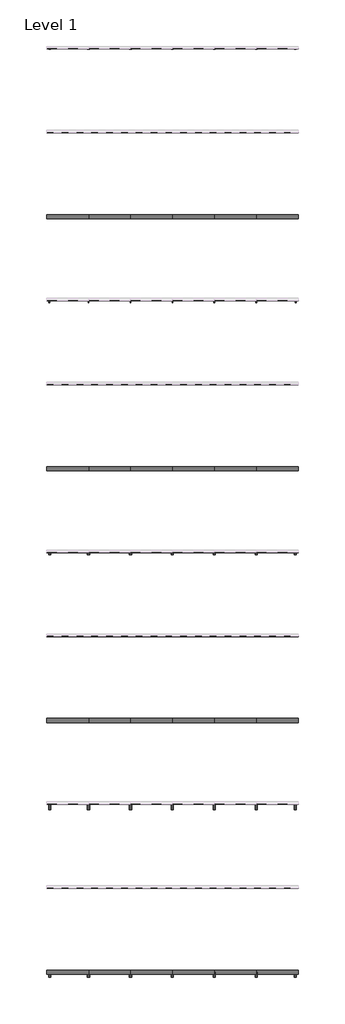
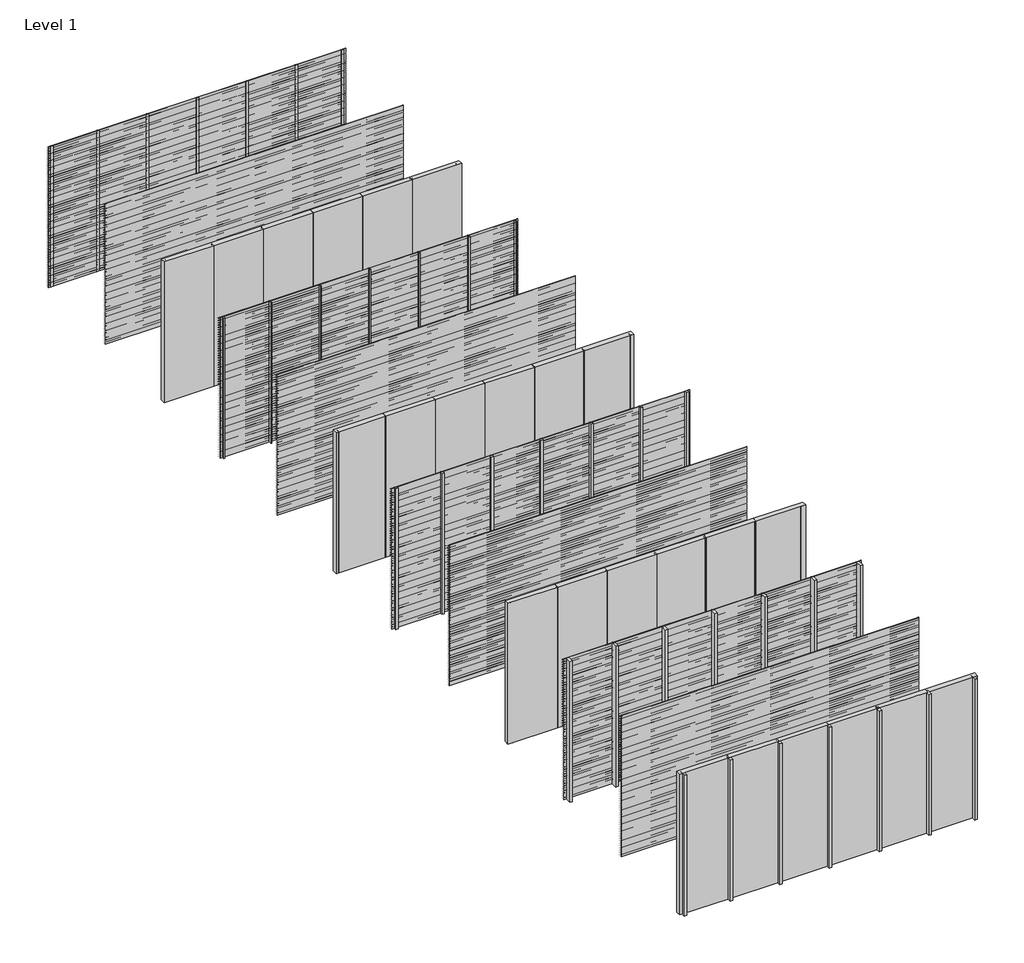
# One storey, part 1 of 18: 56 members, 52 plates, 18 proxies.
"""IFC4 building model written with IfcOpenShell, lengths in millimetres."""

from ifc_helpers import new_model, si_unit, frame, origin, origin_with_axes, place, context, project, spatial, polyline, outline, extrude, transform, mapped, element, save
from components import rectangular_mullion_bbbcbd30, rectangular_mullion_f8d4a220, rectangular_mullion_81aaf6fe, rectangular_mullion_6e08dc26, rectangular_mullion_75c52e10, rectangular_mullion_40295cf1, rectangular_mullion_7f158cb3, rectangular_mullion_66519e13, rectangular_mullion_5829b51c, rectangular_mullion_3b5b8a15, rectangular_mullion_81543344, rectangular_mullion_041a21c4, empty_system_panel_empty_e246a7f8, empty_system_panel_empty_98ea7a2b

model = new_model("IFC4")

# Units and contexts
model_context = context("Model", 3, world=origin())
ifc_project = project(units=[si_unit("LENGTHUNIT", "METRE", prefix="MILLI")], contexts=[model_context])

# Site, building, storey
site = spatial("IfcSite", under=ifc_project)
building = spatial("IfcBuilding", under=site)
storey = spatial("IfcBuildingStorey", under=building, Name="Level 1", Elevation=0.0)

# Proxies
placement = place(None, origin())
element("IfcBuildingElementProxy", 1, Name="Wall Sweeps", at=placement, inside=storey, context=model_context, shape_type="SweptSolid", body=[
    extrude(outline(polyline([(-19995.0, 3000.0), (-19995.0, 2991.0744429), (-19943.0, 2956.0), (-19943.0, 2950.0), (-19997.0, 2986.4234599), (-19997.0, 3000.0), (-19995.0, 3000.0)])), frame((0.0, 0.0, 0.0), z_axis=(1.0, 0.0, 0.0), x_axis=(0.0, 1.0, 0.0)), (0.0, 0.0, 1.0), 6000.0),
])
element("IfcBuildingElementProxy", 2, Name="Wall Sweeps", at=placement, inside=storey, context=model_context, shape_type="SweptSolid", body=[
    extrude(outline(polyline([(-19995.0, 2950.0), (-19995.0, 2941.0744429), (-19943.0, 2906.0), (-19943.0, 2900.0), (-19997.0, 2936.4234599), (-19997.0, 2950.0), (-19995.0, 2950.0)])), frame((0.0, 0.0, 0.0), z_axis=(1.0, 0.0, 0.0), x_axis=(0.0, 1.0, 0.0)), (0.0, 0.0, 1.0), 6000.0),
])
element("IfcBuildingElementProxy", 3, Name="Wall Sweeps", at=placement, inside=storey, context=model_context, shape_type="SweptSolid", body=[
    extrude(outline(polyline([(-19995.0, 2900.0), (-19995.0, 2891.0744429), (-19943.0, 2856.0), (-19943.0, 2850.0), (-19997.0, 2886.4234599), (-19997.0, 2900.0), (-19995.0, 2900.0)])), frame((0.0, 0.0, 0.0), z_axis=(1.0, 0.0, 0.0), x_axis=(0.0, 1.0, 0.0)), (0.0, 0.0, 1.0), 6000.0),
])
element("IfcBuildingElementProxy", 4, Name="Wall Sweeps", at=placement, inside=storey, context=model_context, shape_type="SweptSolid", body=[
    extrude(outline(polyline([(-19995.0, 2850.0), (-19995.0, 2841.0744429), (-19943.0, 2806.0), (-19943.0, 2800.0), (-19997.0, 2836.4234599), (-19997.0, 2850.0), (-19995.0, 2850.0)])), frame((0.0, 0.0, 0.0), z_axis=(1.0, 0.0, 0.0), x_axis=(0.0, 1.0, 0.0)), (0.0, 0.0, 1.0), 6000.0),
])
element("IfcBuildingElementProxy", 5, Name="Wall Sweeps", at=placement, inside=storey, context=model_context, shape_type="SweptSolid", body=[
    extrude(outline(polyline([(-19995.0, 2800.0), (-19995.0, 2791.0744429), (-19943.0, 2756.0), (-19943.0, 2750.0), (-19997.0, 2786.4234599), (-19997.0, 2800.0), (-19995.0, 2800.0)])), frame((0.0, 0.0, 0.0), z_axis=(1.0, 0.0, 0.0), x_axis=(0.0, 1.0, 0.0)), (0.0, 0.0, 1.0), 6000.0),
])
element("IfcBuildingElementProxy", 6, Name="Wall Sweeps", at=placement, inside=storey, context=model_context, shape_type="SweptSolid", body=[
    extrude(outline(polyline([(-19995.0, 2750.0), (-19995.0, 2741.0744429), (-19943.0, 2706.0), (-19943.0, 2700.0), (-19997.0, 2736.4234599), (-19997.0, 2750.0), (-19995.0, 2750.0)])), frame((0.0, 0.0, 0.0), z_axis=(1.0, 0.0, 0.0), x_axis=(0.0, 1.0, 0.0)), (0.0, 0.0, 1.0), 6000.0),
])
element("IfcBuildingElementProxy", 7, Name="Wall Sweeps", at=placement, inside=storey, context=model_context, shape_type="SweptSolid", body=[
    extrude(outline(polyline([(-19995.0, 2700.0), (-19995.0, 2691.0744429), (-19943.0, 2656.0), (-19943.0, 2650.0), (-19997.0, 2686.4234599), (-19997.0, 2700.0), (-19995.0, 2700.0)])), frame((0.0, 0.0, 0.0), z_axis=(1.0, 0.0, 0.0), x_axis=(0.0, 1.0, 0.0)), (0.0, 0.0, 1.0), 6000.0),
])
element("IfcBuildingElementProxy", 8, Name="Wall Sweeps", at=placement, inside=storey, context=model_context, shape_type="SweptSolid", body=[
    extrude(outline(polyline([(-19995.0, 2650.0), (-19995.0, 2641.0744429), (-19943.0, 2606.0), (-19943.0, 2600.0), (-19997.0, 2636.4234599), (-19997.0, 2650.0), (-19995.0, 2650.0)])), frame((0.0, 0.0, 0.0), z_axis=(1.0, 0.0, 0.0), x_axis=(0.0, 1.0, 0.0)), (0.0, 0.0, 1.0), 6000.0),
])
element("IfcBuildingElementProxy", 9, Name="Wall Sweeps", at=placement, inside=storey, context=model_context, shape_type="SweptSolid", body=[
    extrude(outline(polyline([(-19995.0, 2600.0), (-19995.0, 2591.0744429), (-19943.0, 2556.0), (-19943.0, 2550.0), (-19997.0, 2586.4234599), (-19997.0, 2600.0), (-19995.0, 2600.0)])), frame((0.0, 0.0, 0.0), z_axis=(1.0, 0.0, 0.0), x_axis=(0.0, 1.0, 0.0)), (0.0, 0.0, 1.0), 6000.0),
])
element("IfcBuildingElementProxy", 10, Name="Wall Sweeps", at=placement, inside=storey, context=model_context, shape_type="SweptSolid", body=[
    extrude(outline(polyline([(-19995.0, 2550.0), (-19995.0, 2541.0744429), (-19943.0, 2506.0), (-19943.0, 2500.0), (-19997.0, 2536.4234599), (-19997.0, 2550.0), (-19995.0, 2550.0)])), frame((0.0, 0.0, 0.0), z_axis=(1.0, 0.0, 0.0), x_axis=(0.0, 1.0, 0.0)), (0.0, 0.0, 1.0), 6000.0),
])
element("IfcBuildingElementProxy", 11, Name="Wall Sweeps", at=placement, inside=storey, context=model_context, shape_type="SweptSolid", body=[
    extrude(outline(polyline([(-19995.0, 2500.0), (-19995.0, 2491.0744429), (-19943.0, 2456.0), (-19943.0, 2450.0), (-19997.0, 2486.4234599), (-19997.0, 2500.0), (-19995.0, 2500.0)])), frame((0.0, 0.0, 0.0), z_axis=(1.0, 0.0, 0.0), x_axis=(0.0, 1.0, 0.0)), (0.0, 0.0, 1.0), 6000.0),
])
element("IfcBuildingElementProxy", 12, Name="Wall Sweeps", at=placement, inside=storey, context=model_context, shape_type="SweptSolid", body=[
    extrude(outline(polyline([(-19995.0, 2450.0), (-19995.0, 2441.0744429), (-19943.0, 2406.0), (-19943.0, 2400.0), (-19997.0, 2436.4234599), (-19997.0, 2450.0), (-19995.0, 2450.0)])), frame((0.0, 0.0, 0.0), z_axis=(1.0, 0.0, 0.0), x_axis=(0.0, 1.0, 0.0)), (0.0, 0.0, 1.0), 6000.0),
])
element("IfcBuildingElementProxy", 13, Name="Wall Sweeps", at=placement, inside=storey, context=model_context, shape_type="SweptSolid", body=[
    extrude(outline(polyline([(-19995.0, 2400.0), (-19995.0, 2391.0744429), (-19943.0, 2356.0), (-19943.0, 2350.0), (-19997.0, 2386.4234599), (-19997.0, 2400.0), (-19995.0, 2400.0)])), frame((0.0, 0.0, 0.0), z_axis=(1.0, 0.0, 0.0), x_axis=(0.0, 1.0, 0.0)), (0.0, 0.0, 1.0), 6000.0),
])
element("IfcBuildingElementProxy", 14, Name="Wall Sweeps", at=placement, inside=storey, context=model_context, shape_type="SweptSolid", body=[
    extrude(outline(polyline([(-19995.0, 2350.0), (-19995.0, 2341.0744429), (-19943.0, 2306.0), (-19943.0, 2300.0), (-19997.0, 2336.4234599), (-19997.0, 2350.0), (-19995.0, 2350.0)])), frame((0.0, 0.0, 0.0), z_axis=(1.0, 0.0, 0.0), x_axis=(0.0, 1.0, 0.0)), (0.0, 0.0, 1.0), 6000.0),
])
element("IfcBuildingElementProxy", 15, Name="Wall Sweeps", at=placement, inside=storey, context=model_context, shape_type="SweptSolid", body=[
    extrude(outline(polyline([(-19995.0, 2300.0), (-19995.0, 2291.0744429), (-19943.0, 2256.0), (-19943.0, 2250.0), (-19997.0, 2286.4234599), (-19997.0, 2300.0), (-19995.0, 2300.0)])), frame((0.0, 0.0, 0.0), z_axis=(1.0, 0.0, 0.0), x_axis=(0.0, 1.0, 0.0)), (0.0, 0.0, 1.0), 6000.0),
])
element("IfcBuildingElementProxy", 16, Name="Wall Sweeps", at=placement, inside=storey, context=model_context, shape_type="SweptSolid", body=[
    extrude(outline(polyline([(-19995.0, 2250.0), (-19995.0, 2241.0744429), (-19943.0, 2206.0), (-19943.0, 2200.0), (-19997.0, 2236.4234599), (-19997.0, 2250.0), (-19995.0, 2250.0)])), frame((0.0, 0.0, 0.0), z_axis=(1.0, 0.0, 0.0), x_axis=(0.0, 1.0, 0.0)), (0.0, 0.0, 1.0), 6000.0),
])
element("IfcBuildingElementProxy", 17, Name="Wall Sweeps", at=placement, inside=storey, context=model_context, shape_type="SweptSolid", body=[
    extrude(outline(polyline([(-19995.0, 2200.0), (-19995.0, 2191.0744429), (-19943.0, 2156.0), (-19943.0, 2150.0), (-19997.0, 2186.4234599), (-19997.0, 2200.0), (-19995.0, 2200.0)])), frame((0.0, 0.0, 0.0), z_axis=(1.0, 0.0, 0.0), x_axis=(0.0, 1.0, 0.0)), (0.0, 0.0, 1.0), 6000.0),
])
element("IfcBuildingElementProxy", 18, Name="Wall Sweeps", at=placement, inside=storey, context=model_context, shape_type="SweptSolid", body=[
    extrude(outline(polyline([(-19995.0, 2150.0), (-19995.0, 2141.0744429), (-19943.0, 2106.0), (-19943.0, 2100.0), (-19997.0, 2136.4234599), (-19997.0, 2150.0), (-19995.0, 2150.0)])), frame((0.0, 0.0, 0.0), z_axis=(1.0, 0.0, 0.0), x_axis=(0.0, 1.0, 0.0)), (0.0, 0.0, 1.0), 6000.0),
])

# Members
rectangular_mullion_shape = rectangular_mullion_bbbcbd30(model_context)
element("IfcMember", 19, ObjectType="Rectangular Mullion : RSen_21_CWM_support profile - 50x12 - left_gen_duco projects", at=placement, inside=storey, context=model_context, shape_type="MappedRepresentation", body=[
    mapped(rectangular_mullion_shape, transform((0.0, 0.0, 0.0), x_axis=(-1.0, 0.0, 0.0), y_axis=(0.0, 1.0, 0.0), z_axis=(0.0, 0.0, -1.0))),
])
element("IfcMember", 20, ObjectType="Rectangular Mullion : RSen_21_CWM_support profile - 50x12 - left_gen_duco projects", at=placement, inside=storey, context=model_context, shape_type="MappedRepresentation", body=[
    mapped(rectangular_mullion_shape, transform((0.0, -4000.0, 0.0), x_axis=(-1.0, 0.0, 0.0), y_axis=(0.0, 1.0, 0.0), z_axis=(0.0, 0.0, -1.0))),
])
rectangular_mullion_2_shape = rectangular_mullion_f8d4a220(model_context)
element("IfcMember", 21, ObjectType="Rectangular Mullion : RSen_21_CWM_support profile - 50x12 - right_gen_duco projects", at=placement, inside=storey, context=model_context, shape_type="MappedRepresentation", body=[
    mapped(rectangular_mullion_2_shape, transform((6000.0, 0.0, 3000.0), x_axis=(1.0, 0.0, 0.0), y_axis=(0.0, 1.0, 0.0), z_axis=(0.0, 0.0, 1.0))),
])
element("IfcMember", 22, ObjectType="Rectangular Mullion : RSen_21_CWM_support profile - 50x12 - right_gen_duco projects", at=placement, inside=storey, context=model_context, shape_type="MappedRepresentation", body=[
    mapped(rectangular_mullion_2_shape, transform((6000.0, -4000.0, 3000.0), x_axis=(1.0, 0.0, 0.0), y_axis=(0.0, 1.0, 0.0), z_axis=(0.0, 0.0, 1.0))),
])
rectangular_mullion_3_shape = rectangular_mullion_81aaf6fe(model_context)
element("IfcMember", 23, ObjectType="Rectangular Mullion : RSen_21_CWM_support profile - 21x50 Multi - left_gen_duco projects", at=placement, inside=storey, context=model_context, shape_type="MappedRepresentation", body=[
    mapped(rectangular_mullion_3_shape, transform((0.0, -6000.0, 0.0), x_axis=(-1.0, 0.0, 0.0), y_axis=(0.0, 1.0, 0.0), z_axis=(0.0, 0.0, -1.0))),
])
element("IfcMember", 24, ObjectType="Rectangular Mullion : RSen_21_CWM_support profile - 21x50 Multi - left_gen_duco projects", at=placement, inside=storey, context=model_context, shape_type="MappedRepresentation", body=[
    mapped(rectangular_mullion_3_shape, transform((0.0, -10000.0, 0.0), x_axis=(-1.0, 0.0, 0.0), y_axis=(0.0, 1.0, 0.0), z_axis=(0.0, 0.0, -1.0))),
])
rectangular_mullion_4_shape = rectangular_mullion_6e08dc26(model_context)
element("IfcMember", 25, ObjectType="Rectangular Mullion : RSen_21_CWM_support profile - 21x50 Multi - right_gen_duco projects", at=placement, inside=storey, context=model_context, shape_type="MappedRepresentation", body=[
    mapped(rectangular_mullion_4_shape, transform((6000.0, -6000.0, 3000.0), x_axis=(1.0, 0.0, 0.0), y_axis=(0.0, 1.0, 0.0), z_axis=(0.0, 0.0, 1.0))),
])
element("IfcMember", 26, ObjectType="Rectangular Mullion : RSen_21_CWM_support profile - 21x50 Multi - right_gen_duco projects", at=placement, inside=storey, context=model_context, shape_type="MappedRepresentation", body=[
    mapped(rectangular_mullion_4_shape, transform((6000.0, -10000.0, 3000.0), x_axis=(1.0, 0.0, 0.0), y_axis=(0.0, 1.0, 0.0), z_axis=(0.0, 0.0, 1.0))),
])
rectangular_mullion_5_shape = rectangular_mullion_75c52e10(model_context)
element("IfcMember", 27, ObjectType="Rectangular Mullion : RSen_21_CWM_support profile - 50x50 - left_gen_duco projects", at=placement, inside=storey, context=model_context, shape_type="MappedRepresentation", body=[
    mapped(rectangular_mullion_5_shape, transform((0.0, -12000.0, 0.0), x_axis=(-1.0, 0.0, 0.0), y_axis=(0.0, 1.0, 0.0), z_axis=(0.0, 0.0, -1.0))),
])
element("IfcMember", 28, ObjectType="Rectangular Mullion : RSen_21_CWM_support profile - 50x50 - left_gen_duco projects", at=placement, inside=storey, context=model_context, shape_type="MappedRepresentation", body=[
    mapped(rectangular_mullion_5_shape, transform((0.0, -16000.0, 0.0), x_axis=(-1.0, 0.0, 0.0), y_axis=(0.0, 1.0, 0.0), z_axis=(0.0, 0.0, -1.0))),
])
rectangular_mullion_6_shape = rectangular_mullion_40295cf1(model_context)
element("IfcMember", 29, ObjectType="Rectangular Mullion : RSen_21_CWM_support profile - 50x50 - right_gen_duco projects", at=placement, inside=storey, context=model_context, shape_type="MappedRepresentation", body=[
    mapped(rectangular_mullion_6_shape, transform((6000.0, -12000.0, 3000.0), x_axis=(1.0, 0.0, 0.0), y_axis=(0.0, 1.0, 0.0), z_axis=(0.0, 0.0, 1.0))),
])
element("IfcMember", 30, ObjectType="Rectangular Mullion : RSen_21_CWM_support profile - 50x50 - right_gen_duco projects", at=placement, inside=storey, context=model_context, shape_type="MappedRepresentation", body=[
    mapped(rectangular_mullion_6_shape, transform((6000.0, -16000.0, 3000.0), x_axis=(1.0, 0.0, 0.0), y_axis=(0.0, 1.0, 0.0), z_axis=(0.0, 0.0, 1.0))),
])
rectangular_mullion_7_shape = rectangular_mullion_7f158cb3(model_context)
element("IfcMember", 31, ObjectType="Rectangular Mullion : RSen_21_CWM_support profile - 50x12_gen_duco projects", at=placement, inside=storey, context=model_context, shape_type="MappedRepresentation", body=[
    mapped(rectangular_mullion_7_shape, transform((5000.0, 0.0, 0.0), x_axis=(-1.0, 0.0, 0.0), y_axis=(0.0, 1.0, 0.0), z_axis=(0.0, 0.0, -1.0))),
])
element("IfcMember", 32, ObjectType="Rectangular Mullion : RSen_21_CWM_support profile - 50x12_gen_duco projects", at=placement, inside=storey, context=model_context, shape_type="MappedRepresentation", body=[
    mapped(rectangular_mullion_7_shape, transform((4000.0, 0.0, 0.0), x_axis=(-1.0, 0.0, 0.0), y_axis=(0.0, 1.0, 0.0), z_axis=(0.0, 0.0, -1.0))),
])
element("IfcMember", 33, ObjectType="Rectangular Mullion : RSen_21_CWM_support profile - 50x12_gen_duco projects", at=placement, inside=storey, context=model_context, shape_type="MappedRepresentation", body=[
    mapped(rectangular_mullion_7_shape, transform((3000.0, 0.0, 0.0), x_axis=(-1.0, 0.0, 0.0), y_axis=(0.0, 1.0, 0.0), z_axis=(0.0, 0.0, -1.0))),
])
element("IfcMember", 34, ObjectType="Rectangular Mullion : RSen_21_CWM_support profile - 50x12_gen_duco projects", at=placement, inside=storey, context=model_context, shape_type="MappedRepresentation", body=[
    mapped(rectangular_mullion_7_shape, transform((2000.0, 0.0, 0.0), x_axis=(-1.0, 0.0, 0.0), y_axis=(0.0, 1.0, 0.0), z_axis=(0.0, 0.0, -1.0))),
])
element("IfcMember", 35, ObjectType="Rectangular Mullion : RSen_21_CWM_support profile - 50x12_gen_duco projects", at=placement, inside=storey, context=model_context, shape_type="MappedRepresentation", body=[
    mapped(rectangular_mullion_7_shape, transform((1000.0, 0.0, 0.0), x_axis=(-1.0, 0.0, 0.0), y_axis=(0.0, 1.0, 0.0), z_axis=(0.0, 0.0, -1.0))),
])
element("IfcMember", 36, ObjectType="Rectangular Mullion : RSen_21_CWM_support profile - 50x12_gen_duco projects", at=placement, inside=storey, context=model_context, shape_type="MappedRepresentation", body=[
    mapped(rectangular_mullion_7_shape, transform((5000.0, -4000.0, 0.0), x_axis=(-1.0, 0.0, 0.0), y_axis=(0.0, 1.0, 0.0), z_axis=(0.0, 0.0, -1.0))),
])
element("IfcMember", 37, ObjectType="Rectangular Mullion : RSen_21_CWM_support profile - 50x12_gen_duco projects", at=placement, inside=storey, context=model_context, shape_type="MappedRepresentation", body=[
    mapped(rectangular_mullion_7_shape, transform((4000.0, -4000.0, 0.0), x_axis=(-1.0, 0.0, 0.0), y_axis=(0.0, 1.0, 0.0), z_axis=(0.0, 0.0, -1.0))),
])
element("IfcMember", 38, ObjectType="Rectangular Mullion : RSen_21_CWM_support profile - 50x12_gen_duco projects", at=placement, inside=storey, context=model_context, shape_type="MappedRepresentation", body=[
    mapped(rectangular_mullion_7_shape, transform((3000.0, -4000.0, 0.0), x_axis=(-1.0, 0.0, 0.0), y_axis=(0.0, 1.0, 0.0), z_axis=(0.0, 0.0, -1.0))),
])
element("IfcMember", 39, ObjectType="Rectangular Mullion : RSen_21_CWM_support profile - 50x12_gen_duco projects", at=placement, inside=storey, context=model_context, shape_type="MappedRepresentation", body=[
    mapped(rectangular_mullion_7_shape, transform((2000.0, -4000.0, 0.0), x_axis=(-1.0, 0.0, 0.0), y_axis=(0.0, 1.0, 0.0), z_axis=(0.0, 0.0, -1.0))),
])
element("IfcMember", 40, ObjectType="Rectangular Mullion : RSen_21_CWM_support profile - 50x12_gen_duco projects", at=placement, inside=storey, context=model_context, shape_type="MappedRepresentation", body=[
    mapped(rectangular_mullion_7_shape, transform((1000.0, -4000.0, 0.0), x_axis=(-1.0, 0.0, 0.0), y_axis=(0.0, 1.0, 0.0), z_axis=(0.0, 0.0, -1.0))),
])
rectangular_mullion_8_shape = rectangular_mullion_66519e13(model_context)
element("IfcMember", 41, ObjectType="Rectangular Mullion : RSen_21_CWM_support profile - 21x50 Multi_gen_duco projects", at=placement, inside=storey, context=model_context, shape_type="MappedRepresentation", body=[
    mapped(rectangular_mullion_8_shape, transform((5000.0, -6000.0, 0.0), x_axis=(-1.0, 0.0, 0.0), y_axis=(0.0, 1.0, 0.0), z_axis=(0.0, 0.0, -1.0))),
])
element("IfcMember", 42, ObjectType="Rectangular Mullion : RSen_21_CWM_support profile - 21x50 Multi_gen_duco projects", at=placement, inside=storey, context=model_context, shape_type="MappedRepresentation", body=[
    mapped(rectangular_mullion_8_shape, transform((4000.0, -6000.0, 0.0), x_axis=(-1.0, 0.0, 0.0), y_axis=(0.0, 1.0, 0.0), z_axis=(0.0, 0.0, -1.0))),
])
element("IfcMember", 43, ObjectType="Rectangular Mullion : RSen_21_CWM_support profile - 21x50 Multi_gen_duco projects", at=placement, inside=storey, context=model_context, shape_type="MappedRepresentation", body=[
    mapped(rectangular_mullion_8_shape, transform((3000.0, -6000.0, 0.0), x_axis=(-1.0, 0.0, 0.0), y_axis=(0.0, 1.0, 0.0), z_axis=(0.0, 0.0, -1.0))),
])
element("IfcMember", 44, ObjectType="Rectangular Mullion : RSen_21_CWM_support profile - 21x50 Multi_gen_duco projects", at=placement, inside=storey, context=model_context, shape_type="MappedRepresentation", body=[
    mapped(rectangular_mullion_8_shape, transform((2000.0, -6000.0, 0.0), x_axis=(-1.0, 0.0, 0.0), y_axis=(0.0, 1.0, 0.0), z_axis=(0.0, 0.0, -1.0))),
])
element("IfcMember", 45, ObjectType="Rectangular Mullion : RSen_21_CWM_support profile - 21x50 Multi_gen_duco projects", at=placement, inside=storey, context=model_context, shape_type="MappedRepresentation", body=[
    mapped(rectangular_mullion_8_shape, transform((1000.0, -6000.0, 0.0), x_axis=(-1.0, 0.0, 0.0), y_axis=(0.0, 1.0, 0.0), z_axis=(0.0, 0.0, -1.0))),
])
element("IfcMember", 46, ObjectType="Rectangular Mullion : RSen_21_CWM_support profile - 21x50 Multi_gen_duco projects", at=placement, inside=storey, context=model_context, shape_type="MappedRepresentation", body=[
    mapped(rectangular_mullion_8_shape, transform((5000.0, -10000.0, 0.0), x_axis=(-1.0, 0.0, 0.0), y_axis=(0.0, 1.0, 0.0), z_axis=(0.0, 0.0, -1.0))),
])
element("IfcMember", 47, ObjectType="Rectangular Mullion : RSen_21_CWM_support profile - 21x50 Multi_gen_duco projects", at=placement, inside=storey, context=model_context, shape_type="MappedRepresentation", body=[
    mapped(rectangular_mullion_8_shape, transform((4000.0, -10000.0, 0.0), x_axis=(-1.0, 0.0, 0.0), y_axis=(0.0, 1.0, 0.0), z_axis=(0.0, 0.0, -1.0))),
])
element("IfcMember", 48, ObjectType="Rectangular Mullion : RSen_21_CWM_support profile - 21x50 Multi_gen_duco projects", at=placement, inside=storey, context=model_context, shape_type="MappedRepresentation", body=[
    mapped(rectangular_mullion_8_shape, transform((3000.0, -10000.0, 0.0), x_axis=(-1.0, 0.0, 0.0), y_axis=(0.0, 1.0, 0.0), z_axis=(0.0, 0.0, -1.0))),
])
element("IfcMember", 49, ObjectType="Rectangular Mullion : RSen_21_CWM_support profile - 21x50 Multi_gen_duco projects", at=placement, inside=storey, context=model_context, shape_type="MappedRepresentation", body=[
    mapped(rectangular_mullion_8_shape, transform((2000.0, -10000.0, 0.0), x_axis=(-1.0, 0.0, 0.0), y_axis=(0.0, 1.0, 0.0), z_axis=(0.0, 0.0, -1.0))),
])
element("IfcMember", 50, ObjectType="Rectangular Mullion : RSen_21_CWM_support profile - 21x50 Multi_gen_duco projects", at=placement, inside=storey, context=model_context, shape_type="MappedRepresentation", body=[
    mapped(rectangular_mullion_8_shape, transform((1000.0, -10000.0, 0.0), x_axis=(-1.0, 0.0, 0.0), y_axis=(0.0, 1.0, 0.0), z_axis=(0.0, 0.0, -1.0))),
])
rectangular_mullion_9_shape = rectangular_mullion_5829b51c(model_context)
element("IfcMember", 51, ObjectType="Rectangular Mullion : RSen_21_CWM_support profile - 50x50_gen_duco projects", at=placement, inside=storey, context=model_context, shape_type="MappedRepresentation", body=[
    mapped(rectangular_mullion_9_shape, transform((5000.0, -12000.0, 0.0), x_axis=(-1.0, 0.0, 0.0), y_axis=(0.0, 1.0, 0.0), z_axis=(0.0, 0.0, -1.0))),
])
element("IfcMember", 52, ObjectType="Rectangular Mullion : RSen_21_CWM_support profile - 50x50_gen_duco projects", at=placement, inside=storey, context=model_context, shape_type="MappedRepresentation", body=[
    mapped(rectangular_mullion_9_shape, transform((4000.0, -12000.0, 0.0), x_axis=(-1.0, 0.0, 0.0), y_axis=(0.0, 1.0, 0.0), z_axis=(0.0, 0.0, -1.0))),
])
element("IfcMember", 53, ObjectType="Rectangular Mullion : RSen_21_CWM_support profile - 50x50_gen_duco projects", at=placement, inside=storey, context=model_context, shape_type="MappedRepresentation", body=[
    mapped(rectangular_mullion_9_shape, transform((3000.0, -12000.0, 0.0), x_axis=(-1.0, 0.0, 0.0), y_axis=(0.0, 1.0, 0.0), z_axis=(0.0, 0.0, -1.0))),
])
element("IfcMember", 54, ObjectType="Rectangular Mullion : RSen_21_CWM_support profile - 50x50_gen_duco projects", at=placement, inside=storey, context=model_context, shape_type="MappedRepresentation", body=[
    mapped(rectangular_mullion_9_shape, transform((2000.0, -12000.0, 0.0), x_axis=(-1.0, 0.0, 0.0), y_axis=(0.0, 1.0, 0.0), z_axis=(0.0, 0.0, -1.0))),
])
element("IfcMember", 55, ObjectType="Rectangular Mullion : RSen_21_CWM_support profile - 50x50_gen_duco projects", at=placement, inside=storey, context=model_context, shape_type="MappedRepresentation", body=[
    mapped(rectangular_mullion_9_shape, transform((1000.0, -12000.0, 0.0), x_axis=(-1.0, 0.0, 0.0), y_axis=(0.0, 1.0, 0.0), z_axis=(0.0, 0.0, -1.0))),
])
element("IfcMember", 56, ObjectType="Rectangular Mullion : RSen_21_CWM_support profile - 50x50_gen_duco projects", at=placement, inside=storey, context=model_context, shape_type="MappedRepresentation", body=[
    mapped(rectangular_mullion_9_shape, transform((5000.0, -16000.0, 0.0), x_axis=(-1.0, 0.0, 0.0), y_axis=(0.0, 1.0, 0.0), z_axis=(0.0, 0.0, -1.0))),
])
element("IfcMember", 57, ObjectType="Rectangular Mullion : RSen_21_CWM_support profile - 50x50_gen_duco projects", at=placement, inside=storey, context=model_context, shape_type="MappedRepresentation", body=[
    mapped(rectangular_mullion_9_shape, transform((4000.0, -16000.0, 0.0), x_axis=(-1.0, 0.0, 0.0), y_axis=(0.0, 1.0, 0.0), z_axis=(0.0, 0.0, -1.0))),
])
element("IfcMember", 58, ObjectType="Rectangular Mullion : RSen_21_CWM_support profile - 50x50_gen_duco projects", at=placement, inside=storey, context=model_context, shape_type="MappedRepresentation", body=[
    mapped(rectangular_mullion_9_shape, transform((3000.0, -16000.0, 0.0), x_axis=(-1.0, 0.0, 0.0), y_axis=(0.0, 1.0, 0.0), z_axis=(0.0, 0.0, -1.0))),
])
element("IfcMember", 59, ObjectType="Rectangular Mullion : RSen_21_CWM_support profile - 50x50_gen_duco projects", at=placement, inside=storey, context=model_context, shape_type="MappedRepresentation", body=[
    mapped(rectangular_mullion_9_shape, transform((2000.0, -16000.0, 0.0), x_axis=(-1.0, 0.0, 0.0), y_axis=(0.0, 1.0, 0.0), z_axis=(0.0, 0.0, -1.0))),
])
element("IfcMember", 60, ObjectType="Rectangular Mullion : RSen_21_CWM_support profile - 50x50_gen_duco projects", at=placement, inside=storey, context=model_context, shape_type="MappedRepresentation", body=[
    mapped(rectangular_mullion_9_shape, transform((1000.0, -16000.0, 0.0), x_axis=(-1.0, 0.0, 0.0), y_axis=(0.0, 1.0, 0.0), z_axis=(0.0, 0.0, -1.0))),
])
rectangular_mullion_10_shape = rectangular_mullion_3b5b8a15(model_context)
element("IfcMember", 61, ObjectType="Rectangular Mullion : RSen_21_CWM_support profile - 50x125_gen_duco projects", at=placement, inside=storey, context=model_context, shape_type="MappedRepresentation", body=[
    mapped(rectangular_mullion_10_shape, transform((1000.0000002, -18000.0, 0.0), x_axis=(1.0, 0.0, 0.0), y_axis=(0.0, -1.0, 0.0), z_axis=(0.0, 0.0, -1.0))),
])
element("IfcMember", 62, ObjectType="Rectangular Mullion : RSen_21_CWM_support profile - 50x125_gen_duco projects", at=placement, inside=storey, context=model_context, shape_type="MappedRepresentation", body=[
    mapped(rectangular_mullion_10_shape, transform((2000.0000001, -18000.0, 0.0), x_axis=(1.0, 0.0, 0.0), y_axis=(0.0, -1.0, 0.0), z_axis=(0.0, 0.0, -1.0))),
])
element("IfcMember", 63, ObjectType="Rectangular Mullion : RSen_21_CWM_support profile - 50x125_gen_duco projects", at=placement, inside=storey, context=model_context, shape_type="MappedRepresentation", body=[
    mapped(rectangular_mullion_10_shape, transform((3000.0, -18000.0, 0.0), x_axis=(1.0, 0.0, 0.0), y_axis=(0.0, -1.0, 0.0), z_axis=(0.0, 0.0, -1.0))),
])
element("IfcMember", 64, ObjectType="Rectangular Mullion : RSen_21_CWM_support profile - 50x125_gen_duco projects", at=placement, inside=storey, context=model_context, shape_type="MappedRepresentation", body=[
    mapped(rectangular_mullion_10_shape, transform((3999.9999999, -18000.0, 0.0), x_axis=(1.0, 0.0, 0.0), y_axis=(0.0, -1.0, 0.0), z_axis=(0.0, 0.0, -1.0))),
])
element("IfcMember", 65, ObjectType="Rectangular Mullion : RSen_21_CWM_support profile - 50x125_gen_duco projects", at=placement, inside=storey, context=model_context, shape_type="MappedRepresentation", body=[
    mapped(rectangular_mullion_10_shape, transform((4999.9999998, -18000.0, 0.0), x_axis=(1.0, 0.0, 0.0), y_axis=(0.0, -1.0, 0.0), z_axis=(0.0, 0.0, -1.0))),
])
element("IfcMember", 66, ObjectType="Rectangular Mullion : RSen_21_CWM_support profile - 50x125_gen_duco projects", at=placement, inside=storey, context=model_context, shape_type="MappedRepresentation", body=[
    mapped(rectangular_mullion_10_shape, transform((1000.0000002, -22000.0, 0.0), x_axis=(1.0, 0.0, 0.0), y_axis=(0.0, -1.0, 0.0), z_axis=(0.0, 0.0, -1.0))),
])
element("IfcMember", 67, ObjectType="Rectangular Mullion : RSen_21_CWM_support profile - 50x125_gen_duco projects", at=placement, inside=storey, context=model_context, shape_type="MappedRepresentation", body=[
    mapped(rectangular_mullion_10_shape, transform((2000.0000001, -22000.0, 0.0), x_axis=(1.0, 0.0, 0.0), y_axis=(0.0, -1.0, 0.0), z_axis=(0.0, 0.0, -1.0))),
])
element("IfcMember", 68, ObjectType="Rectangular Mullion : RSen_21_CWM_support profile - 50x125_gen_duco projects", at=placement, inside=storey, context=model_context, shape_type="MappedRepresentation", body=[
    mapped(rectangular_mullion_10_shape, transform((3000.0, -22000.0, 0.0), x_axis=(1.0, 0.0, 0.0), y_axis=(0.0, -1.0, 0.0), z_axis=(0.0, 0.0, -1.0))),
])
element("IfcMember", 69, ObjectType="Rectangular Mullion : RSen_21_CWM_support profile - 50x125_gen_duco projects", at=placement, inside=storey, context=model_context, shape_type="MappedRepresentation", body=[
    mapped(rectangular_mullion_10_shape, transform((3999.9999999, -22000.0, 0.0), x_axis=(1.0, 0.0, 0.0), y_axis=(0.0, -1.0, 0.0), z_axis=(0.0, 0.0, -1.0))),
])
element("IfcMember", 70, ObjectType="Rectangular Mullion : RSen_21_CWM_support profile - 50x125_gen_duco projects", at=placement, inside=storey, context=model_context, shape_type="MappedRepresentation", body=[
    mapped(rectangular_mullion_10_shape, transform((4999.9999998, -22000.0, 0.0), x_axis=(1.0, 0.0, 0.0), y_axis=(0.0, -1.0, 0.0), z_axis=(0.0, 0.0, -1.0))),
])
rectangular_mullion_11_shape = rectangular_mullion_81543344(model_context)
element("IfcMember", 71, ObjectType="Rectangular Mullion : RSen_21_CWM_support profile - 50x125 - left_gen_duco projects", at=placement, inside=storey, context=model_context, shape_type="MappedRepresentation", body=[
    mapped(rectangular_mullion_11_shape, transform((6000.0, -18000.0, 0.0), x_axis=(1.0, 0.0, 0.0), y_axis=(0.0, -1.0, 0.0), z_axis=(0.0, 0.0, -1.0))),
])
element("IfcMember", 72, ObjectType="Rectangular Mullion : RSen_21_CWM_support profile - 50x125 - left_gen_duco projects", at=placement, inside=storey, context=model_context, shape_type="MappedRepresentation", body=[
    mapped(rectangular_mullion_11_shape, transform((6000.0, -22000.0, 0.0), x_axis=(1.0, 0.0, 0.0), y_axis=(0.0, -1.0, 0.0), z_axis=(0.0, 0.0, -1.0))),
])
rectangular_mullion_12_shape = rectangular_mullion_041a21c4(model_context)
element("IfcMember", 73, ObjectType="Rectangular Mullion : RSen_21_CWM_support profile - 50x125 - right_gen_duco projects", at=placement, inside=storey, context=model_context, shape_type="MappedRepresentation", body=[
    mapped(rectangular_mullion_12_shape, transform((0.0, -18000.0, 3000.0), x_axis=(-1.0, 0.0, 0.0), y_axis=(0.0, -1.0, 0.0), z_axis=(0.0, 0.0, 1.0))),
])
element("IfcMember", 74, ObjectType="Rectangular Mullion : RSen_21_CWM_support profile - 50x125 - right_gen_duco projects", at=placement, inside=storey, context=model_context, shape_type="MappedRepresentation", body=[
    mapped(rectangular_mullion_12_shape, transform((0.0, -22000.0, 3000.0), x_axis=(-1.0, 0.0, 0.0), y_axis=(0.0, -1.0, 0.0), z_axis=(0.0, 0.0, 1.0))),
])

# Plates
element("IfcPlate", 75, ObjectType="RSen_21_WA_louvre blade classic W 50HP_gen_duco projects", at=placement, inside=storey, context=model_context, shape_type="SweptSolid", body=[
    extrude(outline(polyline([(0.0, 1.0), (1000.0, 1.0), (1000.0, -1.0), (0.0, -1.0), (0.0, 1.0)])), origin_with_axes(), (0.0, 0.0, 1.0), 3000.0),
])
element("IfcPlate", 76, ObjectType="RSen_21_WA_louvre blade classic W 50HP_gen_duco projects", at=placement, inside=storey, context=model_context, shape_type="SweptSolid", body=[
    extrude(outline(polyline([(1000.0, 1.0), (2000.0, 1.0), (2000.0, -1.0), (1000.0, -1.0), (1000.0, 1.0)])), origin_with_axes(), (0.0, 0.0, 1.0), 3000.0),
])
element("IfcPlate", 77, ObjectType="RSen_21_WA_louvre blade classic W 50HP_gen_duco projects", at=placement, inside=storey, context=model_context, shape_type="SweptSolid", body=[
    extrude(outline(polyline([(2000.0, 1.0), (3000.0, 1.0), (3000.0, -1.0), (2000.0, -1.0), (2000.0, 1.0)])), origin_with_axes(), (0.0, 0.0, 1.0), 3000.0),
])
element("IfcPlate", 78, ObjectType="RSen_21_WA_louvre blade classic W 50HP_gen_duco projects", at=placement, inside=storey, context=model_context, shape_type="SweptSolid", body=[
    extrude(outline(polyline([(3000.0, 1.0), (4000.0, 1.0), (4000.0, -1.0), (3000.0, -1.0), (3000.0, 1.0)])), origin_with_axes(), (0.0, 0.0, 1.0), 3000.0),
])
element("IfcPlate", 79, ObjectType="RSen_21_WA_louvre blade classic W 50HP_gen_duco projects", at=placement, inside=storey, context=model_context, shape_type="SweptSolid", body=[
    extrude(outline(polyline([(4000.0, 1.0), (5000.0, 1.0), (5000.0, -1.0), (4000.0, -1.0), (4000.0, 1.0)])), origin_with_axes(), (0.0, 0.0, 1.0), 3000.0),
])
element("IfcPlate", 80, ObjectType="RSen_21_WA_louvre blade classic W 50HP_gen_duco projects", at=placement, inside=storey, context=model_context, shape_type="SweptSolid", body=[
    extrude(outline(polyline([(5000.0, 1.0), (6000.0, 1.0), (6000.0, -1.0), (5000.0, -1.0), (5000.0, 1.0)])), origin_with_axes(), (0.0, 0.0, 1.0), 3000.0),
])
element("IfcPlate", 81, ObjectType="RSen_21_WA_louvre blade classic W 50HP_gen_duco projects", at=placement, inside=storey, context=model_context, shape_type="SweptSolid", body=[
    extrude(outline(polyline([(0.0, -1999.0), (6000.0, -1999.0), (6000.0, -2001.0), (0.0, -2001.0), (0.0, -1999.0)])), origin_with_axes(), (0.0, 0.0, 1.0), 3000.0),
])
element("IfcPlate", 82, ObjectType="RSen_21_WA_louvre blade classic W 50HP_gen_duco projects", at=placement, inside=storey, context=model_context, shape_type="SweptSolid", body=[
    extrude(outline(polyline([(0.0, -5999.0), (1000.0, -5999.0), (1000.0, -6001.0), (0.0, -6001.0), (0.0, -5999.0)])), origin_with_axes(), (0.0, 0.0, 1.0), 3000.0),
])
element("IfcPlate", 83, ObjectType="RSen_21_WA_louvre blade classic W 50HP_gen_duco projects", at=placement, inside=storey, context=model_context, shape_type="SweptSolid", body=[
    extrude(outline(polyline([(1000.0, -5999.0), (2000.0, -5999.0), (2000.0, -6001.0), (1000.0, -6001.0), (1000.0, -5999.0)])), origin_with_axes(), (0.0, 0.0, 1.0), 3000.0),
])
element("IfcPlate", 84, ObjectType="RSen_21_WA_louvre blade classic W 50HP_gen_duco projects", at=placement, inside=storey, context=model_context, shape_type="SweptSolid", body=[
    extrude(outline(polyline([(2000.0, -5999.0), (3000.0, -5999.0), (3000.0, -6001.0), (2000.0, -6001.0), (2000.0, -5999.0)])), origin_with_axes(), (0.0, 0.0, 1.0), 3000.0),
])
element("IfcPlate", 85, ObjectType="RSen_21_WA_louvre blade classic W 50HP_gen_duco projects", at=placement, inside=storey, context=model_context, shape_type="SweptSolid", body=[
    extrude(outline(polyline([(3000.0, -5999.0), (4000.0, -5999.0), (4000.0, -6001.0), (3000.0, -6001.0), (3000.0, -5999.0)])), origin_with_axes(), (0.0, 0.0, 1.0), 3000.0),
])
element("IfcPlate", 86, ObjectType="RSen_21_WA_louvre blade classic W 50HP_gen_duco projects", at=placement, inside=storey, context=model_context, shape_type="SweptSolid", body=[
    extrude(outline(polyline([(4000.0, -5999.0), (5000.0, -5999.0), (5000.0, -6001.0), (4000.0, -6001.0), (4000.0, -5999.0)])), origin_with_axes(), (0.0, 0.0, 1.0), 3000.0),
])
element("IfcPlate", 87, ObjectType="RSen_21_WA_louvre blade classic W 50HP_gen_duco projects", at=placement, inside=storey, context=model_context, shape_type="SweptSolid", body=[
    extrude(outline(polyline([(5000.0, -5999.0), (6000.0, -5999.0), (6000.0, -6001.0), (5000.0, -6001.0), (5000.0, -5999.0)])), origin_with_axes(), (0.0, 0.0, 1.0), 3000.0),
])
element("IfcPlate", 88, ObjectType="RSen_21_WA_louvre blade classic W 50HP_gen_duco projects", at=placement, inside=storey, context=model_context, shape_type="SweptSolid", body=[
    extrude(outline(polyline([(0.0, -7999.0), (6000.0, -7999.0), (6000.0, -8001.0), (0.0, -8001.0), (0.0, -7999.0)])), origin_with_axes(), (0.0, 0.0, 1.0), 3000.0),
])
element("IfcPlate", 89, ObjectType="RSen_21_WA_louvre blade classic W 50HP_gen_duco projects", at=placement, inside=storey, context=model_context, shape_type="SweptSolid", body=[
    extrude(outline(polyline([(0.0, -11999.0), (1000.0, -11999.0), (1000.0, -12001.0), (0.0, -12001.0), (0.0, -11999.0)])), origin_with_axes(), (0.0, 0.0, 1.0), 3000.0),
])
element("IfcPlate", 90, ObjectType="RSen_21_WA_louvre blade classic W 50HP_gen_duco projects", at=placement, inside=storey, context=model_context, shape_type="SweptSolid", body=[
    extrude(outline(polyline([(1000.0, -11999.0), (2000.0, -11999.0), (2000.0, -12001.0), (1000.0, -12001.0), (1000.0, -11999.0)])), origin_with_axes(), (0.0, 0.0, 1.0), 3000.0),
])
element("IfcPlate", 91, ObjectType="RSen_21_WA_louvre blade classic W 50HP_gen_duco projects", at=placement, inside=storey, context=model_context, shape_type="SweptSolid", body=[
    extrude(outline(polyline([(2000.0, -11999.0), (3000.0, -11999.0), (3000.0, -12001.0), (2000.0, -12001.0), (2000.0, -11999.0)])), origin_with_axes(), (0.0, 0.0, 1.0), 3000.0),
])
element("IfcPlate", 92, ObjectType="RSen_21_WA_louvre blade classic W 50HP_gen_duco projects", at=placement, inside=storey, context=model_context, shape_type="SweptSolid", body=[
    extrude(outline(polyline([(3000.0, -11999.0), (4000.0, -11999.0), (4000.0, -12001.0), (3000.0, -12001.0), (3000.0, -11999.0)])), origin_with_axes(), (0.0, 0.0, 1.0), 3000.0),
])
element("IfcPlate", 93, ObjectType="RSen_21_WA_louvre blade classic W 50HP_gen_duco projects", at=placement, inside=storey, context=model_context, shape_type="SweptSolid", body=[
    extrude(outline(polyline([(4000.0, -11999.0), (5000.0, -11999.0), (5000.0, -12001.0), (4000.0, -12001.0), (4000.0, -11999.0)])), origin_with_axes(), (0.0, 0.0, 1.0), 3000.0),
])
element("IfcPlate", 94, ObjectType="RSen_21_WA_louvre blade classic W 50HP_gen_duco projects", at=placement, inside=storey, context=model_context, shape_type="SweptSolid", body=[
    extrude(outline(polyline([(5000.0, -11999.0), (6000.0, -11999.0), (6000.0, -12001.0), (5000.0, -12001.0), (5000.0, -11999.0)])), origin_with_axes(), (0.0, 0.0, 1.0), 3000.0),
])
element("IfcPlate", 95, ObjectType="RSen_21_WA_louvre blade classic W 50HP_gen_duco projects", at=placement, inside=storey, context=model_context, shape_type="SweptSolid", body=[
    extrude(outline(polyline([(0.0, -13999.0), (6000.0, -13999.0), (6000.0, -14001.0), (0.0, -14001.0), (0.0, -13999.0)])), origin_with_axes(), (0.0, 0.0, 1.0), 3000.0),
])
element("IfcPlate", 96, ObjectType="RSen_21_WA_louvre blade classic W 50HP_gen_duco projects", at=placement, inside=storey, context=model_context, shape_type="SweptSolid", body=[
    extrude(outline(polyline([(6000.0, -18001.0), (4999.9999998, -18001.0), (4999.9999998, -17999.0), (6000.0, -17999.0), (6000.0, -18001.0)])), origin_with_axes(), (0.0, 0.0, 1.0), 3000.0),
])
element("IfcPlate", 97, ObjectType="RSen_21_WA_louvre blade classic W 50HP_gen_duco projects", at=placement, inside=storey, context=model_context, shape_type="SweptSolid", body=[
    extrude(outline(polyline([(4999.9999998, -18001.0), (3999.9999999, -18001.0), (3999.9999999, -17999.0), (4999.9999998, -17999.0), (4999.9999998, -18001.0)])), origin_with_axes(), (0.0, 0.0, 1.0), 3000.0),
])
element("IfcPlate", 98, ObjectType="RSen_21_WA_louvre blade classic W 50HP_gen_duco projects", at=placement, inside=storey, context=model_context, shape_type="SweptSolid", body=[
    extrude(outline(polyline([(3999.9999999, -18001.0), (3000.0, -18001.0), (3000.0, -17999.0), (3999.9999999, -17999.0), (3999.9999999, -18001.0)])), origin_with_axes(), (0.0, 0.0, 1.0), 3000.0),
])
element("IfcPlate", 99, ObjectType="RSen_21_WA_louvre blade classic W 50HP_gen_duco projects", at=placement, inside=storey, context=model_context, shape_type="SweptSolid", body=[
    extrude(outline(polyline([(3000.0, -18001.0), (2000.0000001, -18001.0), (2000.0000001, -17999.0), (3000.0, -17999.0), (3000.0, -18001.0)])), origin_with_axes(), (0.0, 0.0, 1.0), 3000.0),
])
element("IfcPlate", 100, ObjectType="RSen_21_WA_louvre blade classic W 50HP_gen_duco projects", at=placement, inside=storey, context=model_context, shape_type="SweptSolid", body=[
    extrude(outline(polyline([(2000.0000001, -18001.0), (1000.0000002, -18001.0), (1000.0000002, -17999.0), (2000.0000001, -17999.0), (2000.0000001, -18001.0)])), origin_with_axes(), (0.0, 0.0, 1.0), 3000.0),
])
element("IfcPlate", 101, ObjectType="RSen_21_WA_louvre blade classic W 50HP_gen_duco projects", at=placement, inside=storey, context=model_context, shape_type="SweptSolid", body=[
    extrude(outline(polyline([(1000.0000002, -18001.0), (0.0, -18001.0), (0.0, -17999.0), (1000.0000002, -17999.0), (1000.0000002, -18001.0)])), origin_with_axes(), (0.0, 0.0, 1.0), 3000.0),
])
element("IfcPlate", 102, ObjectType="RSen_21_WA_louvre blade classic W 50HP_gen_duco projects", at=placement, inside=storey, context=model_context, shape_type="SweptSolid", body=[
    extrude(outline(polyline([(6000.0, -20001.0), (0.0, -20001.0), (0.0, -19999.0), (6000.0, -19999.0), (6000.0, -20001.0)])), origin_with_axes(), (0.0, 0.0, 1.0), 3000.0),
])
empty_system_panel_empty_shape = empty_system_panel_empty_e246a7f8(model_context)
element("IfcPlate", 103, ObjectType="Empty System Panel : Empty", at=placement, inside=storey, context=model_context, shape_type="MappedRepresentation", body=[
    mapped(empty_system_panel_empty_shape, transform((5500.0, -4000.0, 0.0), x_axis=(-1.0, 0.0, 0.0), y_axis=(0.0, -1.0, 0.0), z_axis=(0.0, 0.0, 1.0))),
])
element("IfcPlate", 104, ObjectType="Empty System Panel : Empty", at=placement, inside=storey, context=model_context, shape_type="MappedRepresentation", body=[
    mapped(empty_system_panel_empty_shape, transform((5500.0, -10000.0, 0.0), x_axis=(-1.0, 0.0, 0.0), y_axis=(0.0, -1.0, 0.0), z_axis=(0.0, 0.0, 1.0))),
])
element("IfcPlate", 105, ObjectType="Empty System Panel : Empty", at=placement, inside=storey, context=model_context, shape_type="MappedRepresentation", body=[
    mapped(empty_system_panel_empty_shape, transform((5500.0, -16000.0, 0.0), x_axis=(-1.0, 0.0, 0.0), y_axis=(0.0, -1.0, 0.0), z_axis=(0.0, 0.0, 1.0))),
])
element("IfcPlate", 106, ObjectType="Empty System Panel : Empty", at=placement, inside=storey, context=model_context, shape_type="MappedRepresentation", body=[
    mapped(empty_system_panel_empty_shape, transform((4500.0, -4000.0, 0.0), x_axis=(-1.0, 0.0, 0.0), y_axis=(0.0, -1.0, 0.0), z_axis=(0.0, 0.0, 1.0))),
])
element("IfcPlate", 107, ObjectType="Empty System Panel : Empty", at=placement, inside=storey, context=model_context, shape_type="MappedRepresentation", body=[
    mapped(empty_system_panel_empty_shape, transform((3500.0, -4000.0, 0.0), x_axis=(-1.0, 0.0, 0.0), y_axis=(0.0, -1.0, 0.0), z_axis=(0.0, 0.0, 1.0))),
])
element("IfcPlate", 108, ObjectType="Empty System Panel : Empty", at=placement, inside=storey, context=model_context, shape_type="MappedRepresentation", body=[
    mapped(empty_system_panel_empty_shape, transform((2500.0, -4000.0, 0.0), x_axis=(-1.0, 0.0, 0.0), y_axis=(0.0, -1.0, 0.0), z_axis=(0.0, 0.0, 1.0))),
])
element("IfcPlate", 109, ObjectType="Empty System Panel : Empty", at=placement, inside=storey, context=model_context, shape_type="MappedRepresentation", body=[
    mapped(empty_system_panel_empty_shape, transform((1500.0, -4000.0, 0.0), x_axis=(-1.0, 0.0, 0.0), y_axis=(0.0, -1.0, 0.0), z_axis=(0.0, 0.0, 1.0))),
])
element("IfcPlate", 110, ObjectType="Empty System Panel : Empty", at=placement, inside=storey, context=model_context, shape_type="MappedRepresentation", body=[
    mapped(empty_system_panel_empty_shape, transform((500.0, -4000.0, 0.0), x_axis=(-1.0, 0.0, 0.0), y_axis=(0.0, -1.0, 0.0), z_axis=(0.0, 0.0, 1.0))),
])
element("IfcPlate", 111, ObjectType="Empty System Panel : Empty", at=placement, inside=storey, context=model_context, shape_type="MappedRepresentation", body=[
    mapped(empty_system_panel_empty_shape, transform((4500.0, -10000.0, 0.0), x_axis=(-1.0, 0.0, 0.0), y_axis=(0.0, -1.0, 0.0), z_axis=(0.0, 0.0, 1.0))),
])
element("IfcPlate", 112, ObjectType="Empty System Panel : Empty", at=placement, inside=storey, context=model_context, shape_type="MappedRepresentation", body=[
    mapped(empty_system_panel_empty_shape, transform((3500.0, -10000.0, 0.0), x_axis=(-1.0, 0.0, 0.0), y_axis=(0.0, -1.0, 0.0), z_axis=(0.0, 0.0, 1.0))),
])
element("IfcPlate", 113, ObjectType="Empty System Panel : Empty", at=placement, inside=storey, context=model_context, shape_type="MappedRepresentation", body=[
    mapped(empty_system_panel_empty_shape, transform((2500.0, -10000.0, 0.0), x_axis=(-1.0, 0.0, 0.0), y_axis=(0.0, -1.0, 0.0), z_axis=(0.0, 0.0, 1.0))),
])
element("IfcPlate", 114, ObjectType="Empty System Panel : Empty", at=placement, inside=storey, context=model_context, shape_type="MappedRepresentation", body=[
    mapped(empty_system_panel_empty_shape, transform((1500.0, -10000.0, 0.0), x_axis=(-1.0, 0.0, 0.0), y_axis=(0.0, -1.0, 0.0), z_axis=(0.0, 0.0, 1.0))),
])
element("IfcPlate", 115, ObjectType="Empty System Panel : Empty", at=placement, inside=storey, context=model_context, shape_type="MappedRepresentation", body=[
    mapped(empty_system_panel_empty_shape, transform((500.0, -10000.0, 0.0), x_axis=(-1.0, 0.0, 0.0), y_axis=(0.0, -1.0, 0.0), z_axis=(0.0, 0.0, 1.0))),
])
element("IfcPlate", 116, ObjectType="Empty System Panel : Empty", at=placement, inside=storey, context=model_context, shape_type="MappedRepresentation", body=[
    mapped(empty_system_panel_empty_shape, transform((4500.0, -16000.0, 0.0), x_axis=(-1.0, 0.0, 0.0), y_axis=(0.0, -1.0, 0.0), z_axis=(0.0, 0.0, 1.0))),
])
element("IfcPlate", 117, ObjectType="Empty System Panel : Empty", at=placement, inside=storey, context=model_context, shape_type="MappedRepresentation", body=[
    mapped(empty_system_panel_empty_shape, transform((3500.0, -16000.0, 0.0), x_axis=(-1.0, 0.0, 0.0), y_axis=(0.0, -1.0, 0.0), z_axis=(0.0, 0.0, 1.0))),
])
element("IfcPlate", 118, ObjectType="Empty System Panel : Empty", at=placement, inside=storey, context=model_context, shape_type="MappedRepresentation", body=[
    mapped(empty_system_panel_empty_shape, transform((2500.0, -16000.0, 0.0), x_axis=(-1.0, 0.0, 0.0), y_axis=(0.0, -1.0, 0.0), z_axis=(0.0, 0.0, 1.0))),
])
element("IfcPlate", 119, ObjectType="Empty System Panel : Empty", at=placement, inside=storey, context=model_context, shape_type="MappedRepresentation", body=[
    mapped(empty_system_panel_empty_shape, transform((1500.0, -16000.0, 0.0), x_axis=(-1.0, 0.0, 0.0), y_axis=(0.0, -1.0, 0.0), z_axis=(0.0, 0.0, 1.0))),
])
element("IfcPlate", 120, ObjectType="Empty System Panel : Empty", at=placement, inside=storey, context=model_context, shape_type="MappedRepresentation", body=[
    mapped(empty_system_panel_empty_shape, transform((500.0, -16000.0, 0.0), x_axis=(-1.0, 0.0, 0.0), y_axis=(0.0, -1.0, 0.0), z_axis=(0.0, 0.0, 1.0))),
])
empty_system_panel_empty_2_shape = empty_system_panel_empty_98ea7a2b(model_context)
element("IfcPlate", 121, ObjectType="Empty System Panel : Empty", at=placement, inside=storey, context=model_context, shape_type="MappedRepresentation", body=[
    mapped(empty_system_panel_empty_2_shape, transform((500.0000001, -22000.0, 0.0), x_axis=(1.0, 0.0, 0.0), y_axis=(0.0, 1.0, 0.0), z_axis=(0.0, 0.0, 1.0))),
])
element("IfcPlate", 122, ObjectType="Empty System Panel : Empty", at=placement, inside=storey, context=model_context, shape_type="MappedRepresentation", body=[
    mapped(empty_system_panel_empty_2_shape, transform((1500.0000002, -22000.0, 0.0), x_axis=(1.0, 0.0, 0.0), y_axis=(0.0, 1.0, 0.0), z_axis=(0.0, 0.0, 1.0))),
])
element("IfcPlate", 123, ObjectType="Empty System Panel : Empty", at=placement, inside=storey, context=model_context, shape_type="MappedRepresentation", body=[
    mapped(empty_system_panel_empty_2_shape, transform((2500.0000001, -22000.0, 0.0), x_axis=(1.0, 0.0, 0.0), y_axis=(0.0, 1.0, 0.0), z_axis=(0.0, 0.0, 1.0))),
])
element("IfcPlate", 124, ObjectType="Empty System Panel : Empty", at=placement, inside=storey, context=model_context, shape_type="MappedRepresentation", body=[
    mapped(empty_system_panel_empty_2_shape, transform((3499.9999999, -22000.0, 0.0), x_axis=(1.0, 0.0, 0.0), y_axis=(0.0, 1.0, 0.0), z_axis=(0.0, 0.0, 1.0))),
])
element("IfcPlate", 125, ObjectType="Empty System Panel : Empty", at=placement, inside=storey, context=model_context, shape_type="MappedRepresentation", body=[
    mapped(empty_system_panel_empty_2_shape, transform((4499.9999998, -22000.0, 0.0), x_axis=(1.0, 0.0, 0.0), y_axis=(0.0, 1.0, 0.0), z_axis=(0.0, 0.0, 1.0))),
])
element("IfcPlate", 126, ObjectType="Empty System Panel : Empty", at=placement, inside=storey, context=model_context, shape_type="MappedRepresentation", body=[
    mapped(empty_system_panel_empty_2_shape, transform((5499.9999999, -22000.0, 0.0), x_axis=(1.0, 0.0, 0.0), y_axis=(0.0, 1.0, 0.0), z_axis=(0.0, 0.0, 1.0))),
])

save(model, "model.ifc")
